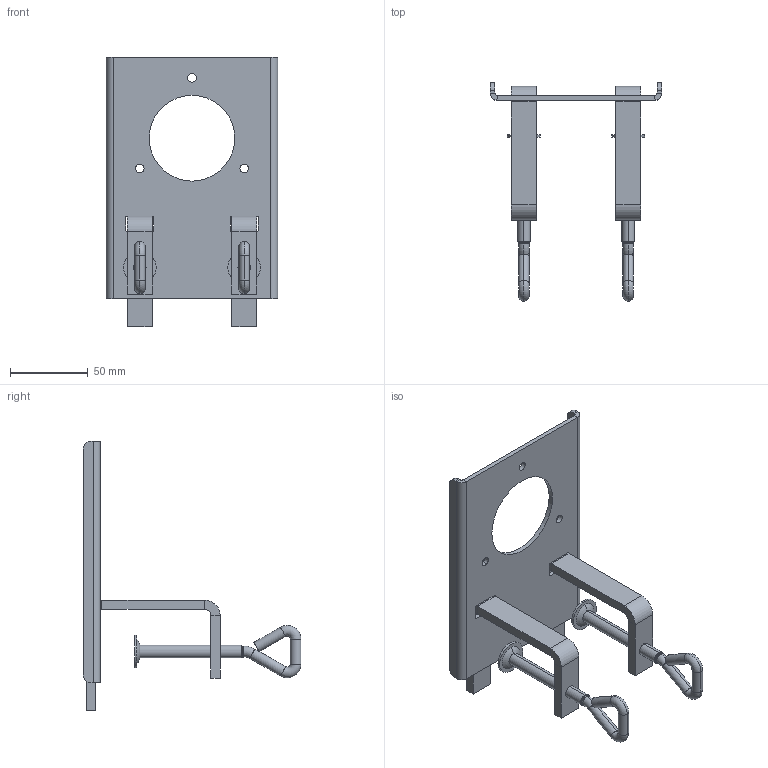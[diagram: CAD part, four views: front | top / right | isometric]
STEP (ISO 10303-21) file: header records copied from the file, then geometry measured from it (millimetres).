
FILE_DESCRIPTION((''),'2;1');
FILE_NAME('123310_ASM','2022-02-14T08:12:18',('SYSTEM'),(''),'CREO PARAMETRIC BY PTC INC, 2018260','CREO PARAMETRIC BY PTC INC, 2018260','');
FILE_SCHEMA(('CONFIG_CONTROL_DESIGN'));
Length unit declared in the file: millimetre
Products named in the file (5): 100706_PRT; 124415-1_PRT; 124415-2_PRT; 124415_ASM; 123310_ASM
Assembly tree (5 placements, depth 3):
  123310_ASM
    100706_PRT
    124415_ASM  x2
      124415-1_PRT
      124415-2_PRT
Bounding box: 110 x 139.8 x 173 mm (x, y, z)
Volume: 98791.3 mm3; surface area: 64207.3 mm2
Topology: 5 solids, 9 shells, 166 faces, 372 edges, 220 vertices
Faces by surface type: plane 74, cylinder 68, torus 12, sphere 8, cone 4
Entity records: 3231 total; most frequent: DIRECTION 608, CARTESIAN_POINT 522, ORIENTED_EDGE 488, EDGE_CURVE 248, AXIS2_PLACEMENT_3D 236, VERTEX_POINT 150, VECTOR 136, LINE 136
